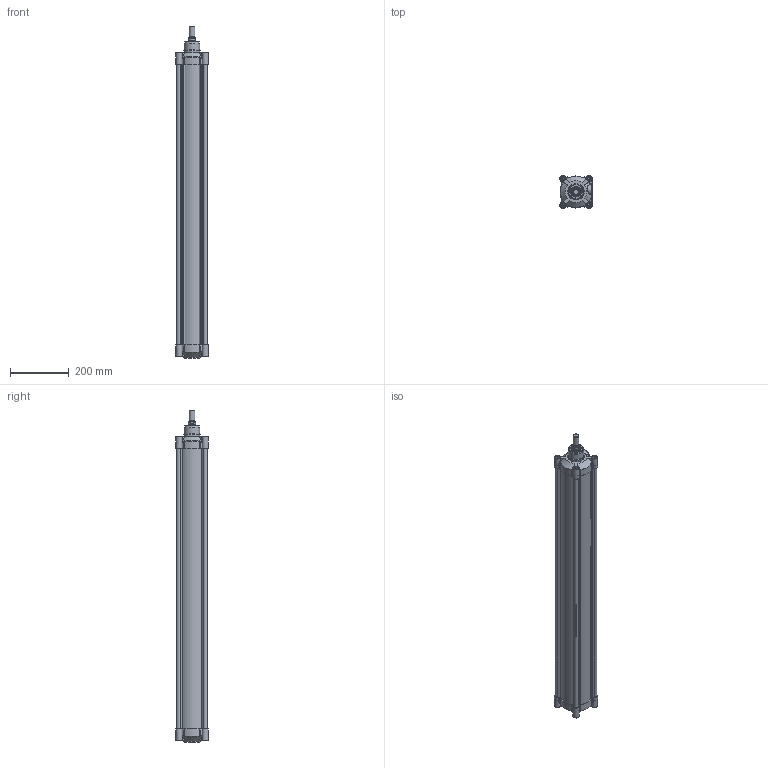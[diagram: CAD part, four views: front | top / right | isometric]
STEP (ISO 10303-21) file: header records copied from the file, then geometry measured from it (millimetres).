
FILE_DESCRIPTION(/* description */ (''),/* implementation_level */ '2;1');
FILE_NAME(/* name */ 'T:\Archivio Inventor\- 00 NUOVI STP PER SITO CON STELO CHE SI MUOVE\SERIE H - U\SERIE HDM\HDM100 - TUBO NUOVO\HDM100.900.GS.M.stp',/* time_stamp */ '2018-08-02T10:05:52+02:00',/* author */ ('carlo.corazza'),/* organization */ (''),/* preprocessor_version */ 'ST-DEVELOPER v16.5',/* originating_system */ 'Autodesk Inventor 2017',/* authorisation */ '');
FILE_SCHEMA (('AUTOMOTIVE_DESIGN { 1 0 10303 214 3 1 1 }'));
Length unit declared in the file: millimetre
Products named in the file (5): HDM100.900.GS.M; TP; TA; STELO-900; CORPO-900
Assembly tree (4 placements, depth 2):
  HDM100.900.GS.M
    TP
    TA
    STELO-900
    CORPO-900
Bounding box: 110 x 110 x 1133 mm (x, y, z)
Volume: 2635825.4 mm3; surface area: 1262730.5 mm2
Topology: 4 solids, 29 shells, 1355 faces, 3135 edges, 1912 vertices
Faces by surface type: plane 408, cylinder 313, bspline 270, torus 126, cone 122, sphere 116
Full cylindrical faces by diameter (mm): 5 x2, 5.9 x2, 6.5 x2, 7.25 x2, 8.376 x8, 9.4 x4, 10 x8, 10.3 x8, 11.8 x4, 11.9 x2, 12 x4, 16 x9, 16.3 x8, 17 x2, 17.5 x1, 18.631 x2, 20 x1, 24.5 x1, 25 x1, 25.8 x1, 25.962 x1, 30 x1, 31.5 x2, 35 x3, 52 x1, 55 x2, 100 x1
Entity records: 43668 total; most frequent: CARTESIAN_POINT 13702, ORIENTED_EDGE 5710, DIRECTION 5644, EDGE_CURVE 2855, AXIS2_PLACEMENT_3D 2293, VERTEX_POINT 1857, EDGE_LOOP 1690, STYLED_ITEM 1359
